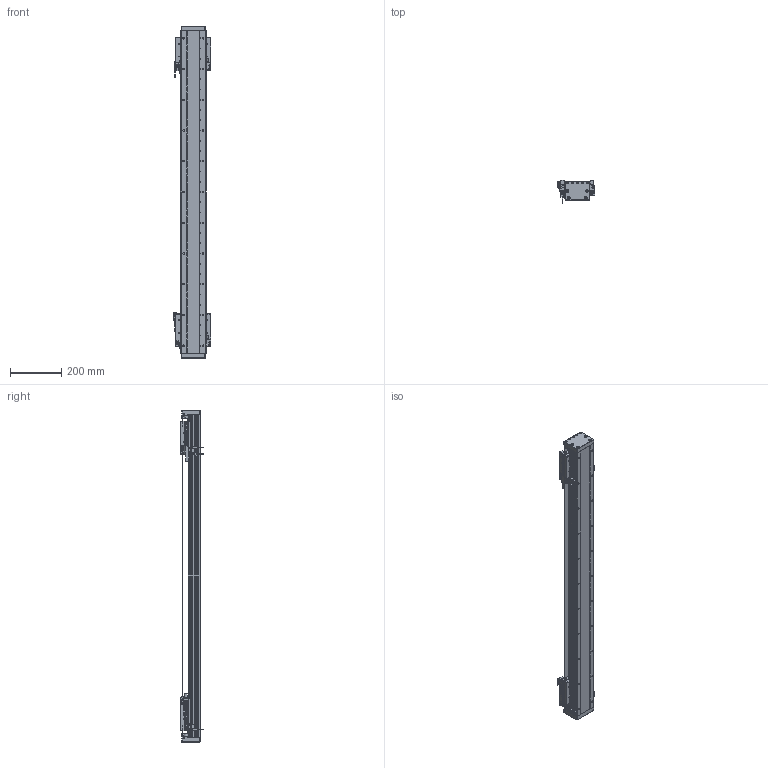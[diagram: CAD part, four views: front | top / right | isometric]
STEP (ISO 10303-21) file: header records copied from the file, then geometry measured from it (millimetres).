
FILE_DESCRIPTION (( 'STEP AP203' ), '1' );
FILE_NAME ('DA-B95-2-B15-T920-C010-0.2 直线电机.STEP', '2023-05-12T02:07:44', ( '微软用户' ), ( '微软中国' ), 'SwSTEP 2.0', 'SolidWorks 2019', '' );
FILE_SCHEMA (( 'CONFIG_CONTROL_DESIGN' ));
Length unit declared in the file: millimetre
Products named in the file (34): IU-BU95-L 菁釱絳寢; 复件 DKW-KGZ-ZJ-00 中间光电开关支架^DA-A95-B15-T-C010-0.2-N 直线电机; 复件 DA95-B15-YB-B-00 压板B^66245-BU95-V 滚珠滑台; 葩璃 BKM015-W060-C1-TP-DA-0.2^DA-A95-B15-T-C010-0.2-N 眻盄萇儂; LMDK-2-R001-V5-L02-C1-F00，0.2M 读数头^DA-A95-B15-T-C010-0.2-N 直线电机_DMA-010-0.2; 复件 DA95-MFP-01 密封片^66245-BU95-V 滚珠滑台; 复件 DA95-HK-GT-00 滑块钢轨^66245-BU95-V-00 一体化滑动台板; 66245-BU95-V 幗紩賑怢; B15 XD-U-02L ｴﾅﾕ､ｳﾟ^DA-A95-B15-T-C010-0.2-N ﾖｱﾏﾟｵ扈銈XD-U-02L; 复件 DA95-B15-YB-A-00 压板A^66245-BU95-V 滚珠滑台; 复件 66245-BU95-HT-V-01 滑动台板^66245-BU95-V-00 一体化滑动台板; DA95-HXJ-00 缓冲橡胶^DA-A95-B15-T-C010-0.2-N 直线电机; 66245-BU95-V-00 珨极趙賑雄怢啣; 复件 DKW-HXJ-JY-00 缓冲橡胶^DA-A95-B15-T-C010-0.2-N 直线电机; 葩璃 DA95-B15-DP--B-00 菜えB^66245-BU95-V 幗紩賑怢; 复件 纯铜油杯 6x6mm^66245-BU95-V 滚珠滑台; IU-BU95-L-00 菁釱_L1260; 复件 复件 18252-0001-002-00 钢带垫块^DA-A95-B15-T-C010-0.2-N 直线电机; DA-B95-2-B15-T920-C010-0.2 眻盄萇儂; 葩璃 DA95-GT-T-00^IU-BU95-L 菁釱絳寢_DA95; 复件 DA95-DB-00  挡板^66245-BU95-V 滚珠滑台; 复件 复件 18252-0001-004-00 钢带端盖^DA-A95-B15-T-C010-0.2-N 直线电机; 葩璃 DA95-B15-DP-A-00 菜えA^66245-BU95-V 幗紩賑怢; 复件 DA95-B15 钢带盖板^DA-A95-B15-T-C010-0.2-N 直线电机; 葩璃 BKMA01-W060-TRL^DA-A95-B15-T-C010-0.2-N 眻盄萇儂; 葩璃 PM-Y45^DA-A95-B15-T-C010-0.2-N 眻盄萇儂; PM-T45 光电开关^DA-A95-B15-T-C010-0.2-N 直线电机; 复件 DKW-GYP-ZJ-00 中间光电感应片^DA-A95-B15-T-C010-0.2-N 直线电机; 复件 DA95-DK-00 挡块^66245-BU95-V 滚珠滑台; 复件 六角薄螺母 M3^DA-A95-B15-T-C010-0.2-N 直线电机_GB_FASTENER_NUT_STNAB M3-C; 复件 复件 18252-0001-003-00 钢带拉块^DA-A95-B15-T-C010-0.2-N 直线电机; DA-A95-GYP-00 光电感应片^DA-A95-B15-T-C010-0.2-N 直线电机
Assembly tree (77 placements, depth 4):
  DA-B95-2-B15-T920-C010-0.2 眻盄萇儂
    IU-BU95-L 菁釱絳寢
      IU-BU95-L-00 菁釱_L1260
      葩璃 DA95-GT-T-00^IU-BU95-L 菁釱絳寢_DA95  x2
    66245-BU95-V 幗紩賑怢
      66245-BU95-V-00 珨极趙賑雄怢啣
        复件 66245-BU95-HT-V-01 滑动台板^66245-BU95-V-00 一体化滑动台板
        复件 DA95-HK-GT-00 滑块钢轨^66245-BU95-V-00 一体化滑动台板  x2
      葩璃 DA95-B15-DP-A-00 菜えA^66245-BU95-V 幗紩賑怢
      复件 DA95-B15-YB-A-00 压板A^66245-BU95-V 滚珠滑台
      复件 DA95-B15-YB-B-00 压板B^66245-BU95-V 滚珠滑台
      复件 DA95-DB-00  挡板^66245-BU95-V 滚珠滑台  x4
      复件 DA95-DK-00 挡块^66245-BU95-V 滚珠滑台  x2
      复件 DA95-MFP-01 密封片^66245-BU95-V 滚珠滑台  x4
      复件 纯铜油杯 6x6mm^66245-BU95-V 滚珠滑台  x2
      葩璃 DA95-B15-DP--B-00 菜えB^66245-BU95-V 幗紩賑怢
    66245-BU95-V 幗紩賑怢
      66245-BU95-V-00 珨极趙賑雄怢啣
        复件 66245-BU95-HT-V-01 滑动台板^66245-BU95-V-00 一体化滑动台板
        复件 DA95-HK-GT-00 滑块钢轨^66245-BU95-V-00 一体化滑动台板  x2
      葩璃 DA95-B15-DP-A-00 菜えA^66245-BU95-V 幗紩賑怢
      复件 DA95-B15-YB-A-00 压板A^66245-BU95-V 滚珠滑台
      复件 DA95-B15-YB-B-00 压板B^66245-BU95-V 滚珠滑台
      复件 DA95-DB-00  挡板^66245-BU95-V 滚珠滑台  x4
      复件 DA95-DK-00 挡块^66245-BU95-V 滚珠滑台  x2
      复件 DA95-MFP-01 密封片^66245-BU95-V 滚珠滑台  x4
      复件 纯铜油杯 6x6mm^66245-BU95-V 滚珠滑台  x2
      葩璃 DA95-B15-DP--B-00 菜えB^66245-BU95-V 幗紩賑怢
    DA-A95-GYP-00 光电感应片^DA-A95-B15-T-C010-0.2-N 直线电机  x2
    LMDK-2-R001-V5-L02-C1-F00，0.2M 读数头^DA-A95-B15-T-C010-0.2-N 直线电机_DMA-010-0.2  x2
    复件 DKW-KGZ-ZJ-00 中间光电开关支架^DA-A95-B15-T-C010-0.2-N 直线电机
    葩璃 PM-Y45^DA-A95-B15-T-C010-0.2-N 眻盄萇儂
    复件 DKW-GYP-ZJ-00 中间光电感应片^DA-A95-B15-T-C010-0.2-N 直线电机
    葩璃 BKM015-W060-C1-TP-DA-0.2^DA-A95-B15-T-C010-0.2-N 眻盄萇儂  x2
    复件 DKW-HXJ-JY-00 缓冲橡胶^DA-A95-B15-T-C010-0.2-N 直线电机  x2
    PM-T45 光电开关^DA-A95-B15-T-C010-0.2-N 直线电机  x3
    B15 XD-U-02L ｴﾅﾕ､ｳﾟ^DA-A95-B15-T-C010-0.2-N ﾖｱﾏﾟｵ扈銈XD-U-02L
    复件 复件 18252-0001-003-00 钢带拉块^DA-A95-B15-T-C010-0.2-N 直线电机  x2
    复件 复件 18252-0001-002-00 钢带垫块^DA-A95-B15-T-C010-0.2-N 直线电机  x2
    复件 复件 18252-0001-004-00 钢带端盖^DA-A95-B15-T-C010-0.2-N 直线电机  x2
    复件 DA95-B15 钢带盖板^DA-A95-B15-T-C010-0.2-N 直线电机
    DA95-HXJ-00 缓冲橡胶^DA-A95-B15-T-C010-0.2-N 直线电机  x4
    葩璃 BKMA01-W060-TRL^DA-A95-B15-T-C010-0.2-N 眻盄萇儂
    复件 六角薄螺母 M3^DA-A95-B15-T-C010-0.2-N 直线电机_GB_FASTENER_NUT_STNAB M3-C  x4
Bounding box: 145.4 x 90.2 x 1296 mm (x, y, z)
Volume: 4833799.4 mm3; surface area: 1546225.5 mm2
Topology: 72 solids, 90 shells, 3563 faces, 9590 edges, 6011 vertices
Faces by surface type: cylinder 1725, plane 1322, cone 448, torus 64, sphere 4
Entity records: 75104 total; most frequent: CARTESIAN_POINT 17391, DIRECTION 11190, ORIENTED_EDGE 11046, EDGE_CURVE 5523, AXIS2_PLACEMENT_3D 4198, VERTEX_POINT 3577, LINE 2794, VECTOR 2794
